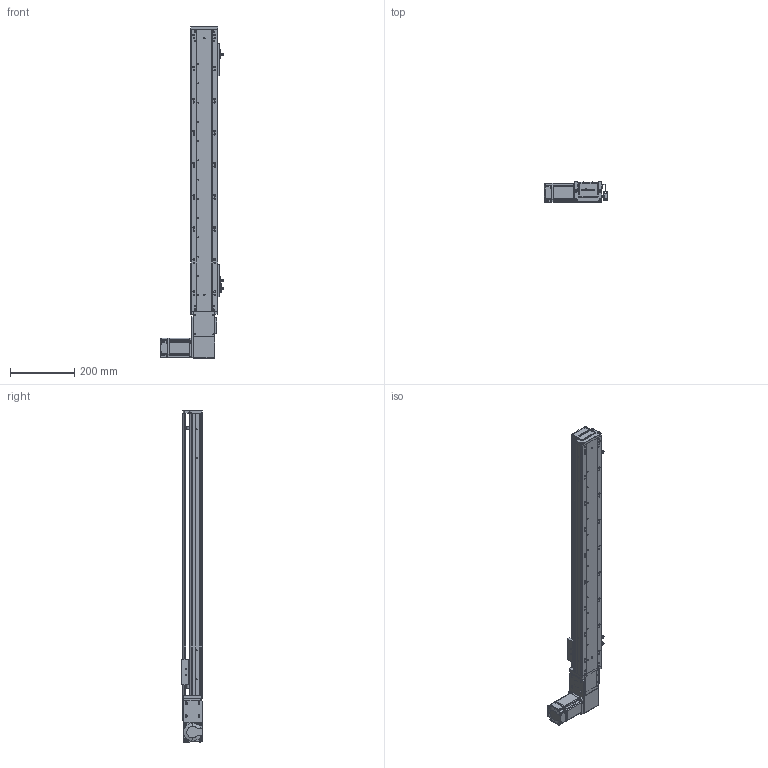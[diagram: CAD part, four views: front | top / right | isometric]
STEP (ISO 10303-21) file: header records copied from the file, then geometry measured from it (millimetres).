
FILE_DESCRIPTION (( 'STEP AP203' ), '1' );
FILE_NAME ('RY80-T-300-LK.SLDASM_700.step', '2021-03-01T01:58:28', ( '盈信电脑' ), ( '东莞市道滘镇水果街19号' ), 'SwSTEP 2.0', 'SolidWorks 2012', '' );
FILE_SCHEMA (( 'CONFIG_CONTROL_DESIGN' ));
Length unit declared in the file: millimetre
Products named in the file (19): RY80-T-300-LK.SLDASM_700; RY80-T-M4蹟翐; RY80-T萇儂假蚾啣; 侂狟200W萇儂; RY80-T肮祭謫俋欶; RY80-T粣創揤踡輸; RY80-T翋肮祭謫裔啣; 1; 滅袉蝶18-10; RY80-T-翋肮祭謫釱; RY80俋离覜茼え; RY80-T肮祭湍揤輸1; RY80-T肮祭湍揤輸2; RY80-T綴裔啣; 672嫖萇羲壽假蚾釱; 覜茼ん672; RY80-T-300-LK倰第奻裔啣_700; RY80-T肮祭謫臏賑輸; RY80-T-300-LK倰第菁釱_700
Assembly tree (24 placements, depth 3):
  RY80-T-300-LK.SLDASM_700
    RY80-T-300-LK倰第菁釱_700
    RY80-T肮祭謫臏賑輸
    RY80-T-300-LK倰第奻裔啣_700
    RY80-T綴裔啣
    672嫖萇羲壽假蚾釱  x2
    覜茼ん672  x3
    RY80俋离覜茼え
    RY80-T-翋肮祭謫釱
    RY80-T肮祭湍揤輸1
    RY80-T肮祭湍揤輸2
    RY80-T粣創揤踡輸
    RY80-T翋肮祭謫裔啣  x2
    滅袉蝶18-10  x2
    侂狟200W萇儂
      1
    RY80-T肮祭謫俋欶
    RY80-T萇儂假蚾啣
    RY80-T-M4蹟翐  x2
Bounding box: 198.7 x 65 x 1035 mm (x, y, z)
Volume: 1786616.3 mm3; surface area: 735271.7 mm2
Topology: 23 solids, 23 shells, 2521 faces, 6975 edges, 4533 vertices
Faces by surface type: plane 1335, cylinder 980, cone 150, bspline 56
Entity records: 79979 total; most frequent: CARTESIAN_POINT 19925, ORIENTED_EDGE 12394, DIRECTION 11538, EDGE_CURVE 6197, VERTEX_POINT 4074, AXIS2_PLACEMENT_3D 3891, LINE 3756, VECTOR 3756
